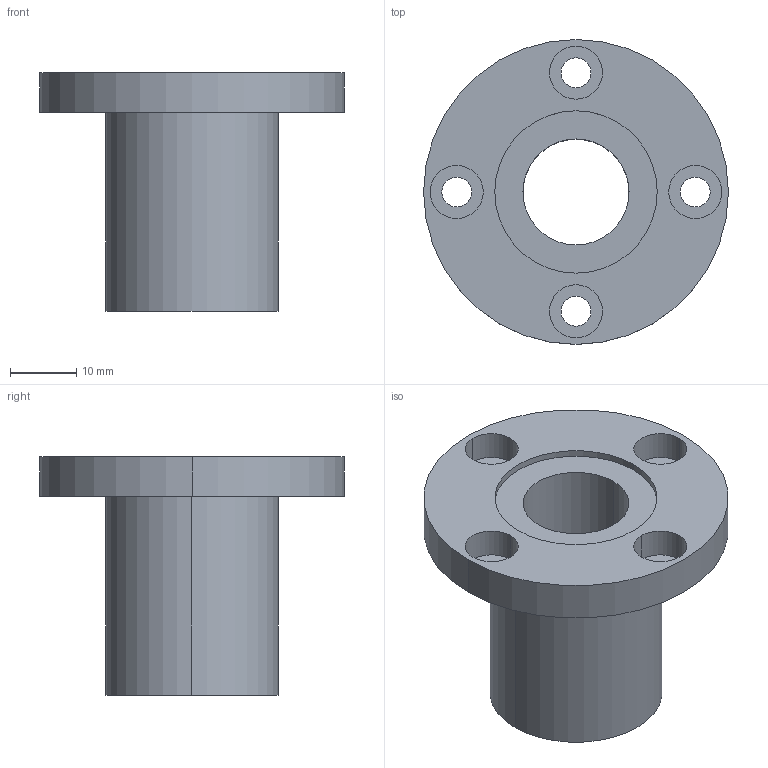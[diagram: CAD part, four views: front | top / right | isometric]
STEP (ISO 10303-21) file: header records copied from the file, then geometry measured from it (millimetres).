
FILE_DESCRIPTION((''),'2;1');
FILE_NAME('C:\Documents and Settings\ｿﾀﾀ蠑ｷ1\ｹﾙﾅﾁ ﾈｭｸ饅\ｺﾎﾇｰﾆﾄﾀﾏ\ﾁｦﾇｰ\LMEF__UU\LMEF16UU.stp','2005-06-15T10:50:15',('ｿﾀﾀ蠑ｷ1'),(''),'Autodesk Inventor 9','Autodesk Inventor 9','');
FILE_SCHEMA(('AUTOMOTIVE_DESIGN { 1 0 10303 214 1 1 1 1 }'));
Length unit declared in the file: millimetre
Products named in the file (1): LMEF__(L)
Bounding box: 46 x 46 x 36 mm (x, y, z)
Volume: 17134 mm3; surface area: 8507.7 mm2
Topology: 1 solids, 1 shells, 35 faces, 78 edges, 52 vertices
Faces by surface type: bspline 20, cylinder 10, plane 5
Entity records: 1255 total; most frequent: CARTESIAN_POINT 450, DIRECTION 162, ORIENTED_EDGE 156, EDGE_CURVE 78, AXIS2_PLACEMENT_3D 68, VERTEX_POINT 52, CIRCLE 52, EDGE_LOOP 52
